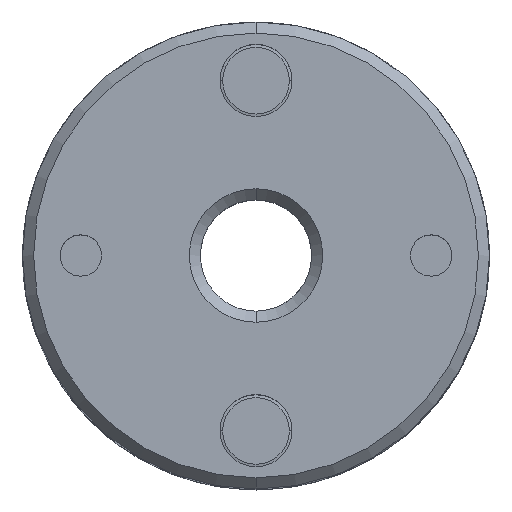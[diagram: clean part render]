
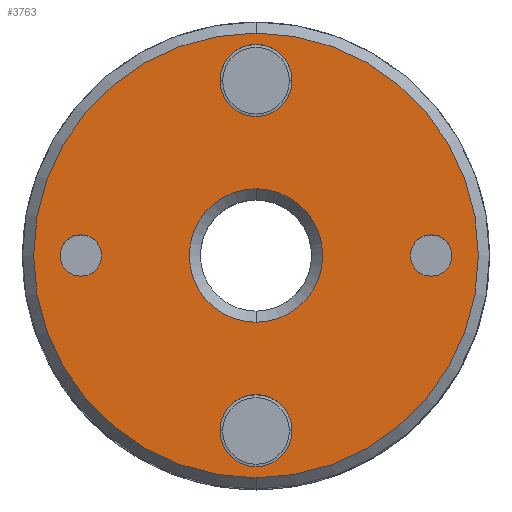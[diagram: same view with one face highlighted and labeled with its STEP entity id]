
A CAD part, top view. The second image highlights one B-rep face of the part: STEP entity #3763.
In plain terms, the highlighted planar face has unit normal (0, 0, 1).
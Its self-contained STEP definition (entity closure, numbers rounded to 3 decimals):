
#1499=CARTESIAN_POINT('',(0.,3.8,5.25));
#1500=VERTEX_POINT('',#1499);
#1516=CARTESIAN_POINT('',(0.,2.5,5.25));
#1517=VERTEX_POINT('',#1516);
#1524=CARTESIAN_POINT('',(0.,3.15,5.25));
#1525=DIRECTION('',(0.0,0.0,-1.0));
#1526=DIRECTION('',(0.0,1.0,0.0));
#1527=AXIS2_PLACEMENT_3D('',#1524,#1525,#1526);
#1528=CIRCLE('',#1527,0.65);
#1529=EDGE_CURVE('',#1500,#1517,#1528,.T.);
#1541=CARTESIAN_POINT('',(0.,-2.5,5.25));
#1542=VERTEX_POINT('',#1541);
#1558=CARTESIAN_POINT('',(0.,-3.8,5.25));
#1559=VERTEX_POINT('',#1558);
#1566=CARTESIAN_POINT('',(0.,-3.15,5.25));
#1567=DIRECTION('',(0.0,0.0,-1.0));
#1568=DIRECTION('',(0.0,1.0,0.0));
#1569=AXIS2_PLACEMENT_3D('',#1566,#1567,#1568);
#1570=CIRCLE('',#1569,0.65);
#1571=EDGE_CURVE('',#1542,#1559,#1570,.T.);
#1583=CARTESIAN_POINT('',(-3.15,0.375,5.25));
#1584=VERTEX_POINT('',#1583);
#1600=CARTESIAN_POINT('',(-3.15,-0.375,5.25));
#1601=VERTEX_POINT('',#1600);
#1608=CARTESIAN_POINT('',(-3.15,0.,5.25));
#1609=DIRECTION('',(0.0,0.0,-1.0));
#1610=DIRECTION('',(0.0,1.0,0.0));
#1611=AXIS2_PLACEMENT_3D('',#1608,#1609,#1610);
#1612=CIRCLE('',#1611,0.375);
#1613=EDGE_CURVE('',#1584,#1601,#1612,.T.);
#1625=CARTESIAN_POINT('',(3.15,0.375,5.25));
#1626=VERTEX_POINT('',#1625);
#1642=CARTESIAN_POINT('',(3.15,-0.375,5.25));
#1643=VERTEX_POINT('',#1642);
#1650=CARTESIAN_POINT('',(3.15,0.,5.25));
#1651=DIRECTION('',(0.0,0.0,-1.0));
#1652=DIRECTION('',(0.0,1.0,0.0));
#1653=AXIS2_PLACEMENT_3D('',#1650,#1651,#1652);
#1654=CIRCLE('',#1653,0.375);
#1655=EDGE_CURVE('',#1626,#1643,#1654,.T.);
#1768=CARTESIAN_POINT('',(0.,-1.2,5.25));
#1769=VERTEX_POINT('',#1768);
#1783=CARTESIAN_POINT('',(0.,1.2,5.25));
#1784=VERTEX_POINT('',#1783);
#1791=CARTESIAN_POINT('',(0.,0.,5.25));
#1792=DIRECTION('',(0.0,0.0,1.0));
#1793=DIRECTION('',(0.0,-1.0,0.0));
#1794=AXIS2_PLACEMENT_3D('',#1791,#1792,#1793);
#1795=CIRCLE('',#1794,1.2);
#1796=EDGE_CURVE('',#1784,#1769,#1795,.T.);
#1937=CARTESIAN_POINT('',(0.,-4.0,5.25));
#1938=VERTEX_POINT('',#1937);
#1945=CARTESIAN_POINT('',(0.,4.0,5.25));
#1946=VERTEX_POINT('',#1945);
#1947=CARTESIAN_POINT('',(0.,0.,5.25));
#1948=DIRECTION('',(0.0,0.0,-1.0));
#1949=DIRECTION('',(0.0,-1.0,0.0));
#1950=AXIS2_PLACEMENT_3D('',#1947,#1948,#1949);
#1951=CIRCLE('',#1950,4.0);
#1952=EDGE_CURVE('',#1938,#1946,#1951,.T.);
#3694=CARTESIAN_POINT('',(0.,0.,5.25));
#3695=DIRECTION('',(0.0,0.0,-1.0));
#3696=DIRECTION('',(0.0,-1.0,0.0));
#3697=AXIS2_PLACEMENT_3D('',#3694,#3695,#3696);
#3698=CIRCLE('',#3697,4.0);
#3699=EDGE_CURVE('',#1946,#1938,#3698,.T.);
#3704=CARTESIAN_POINT('',(0.,0.382,5.25));
#3705=DIRECTION('',(0.0,0.0,-1.0));
#3706=DIRECTION('',(0.0,1.0,0.0));
#3707=AXIS2_PLACEMENT_3D('',#3704,#3705,#3706);
#3708=PLANE('',#3707);
#3709=ORIENTED_EDGE('',*,*,#3699,.F.);
#3710=ORIENTED_EDGE('',*,*,#1952,.F.);
#3711=EDGE_LOOP('',(#3709,#3710));
#3712=FACE_OUTER_BOUND('',#3711,.T.);
#3713=ORIENTED_EDGE('',*,*,#1796,.F.);
#3714=CARTESIAN_POINT('',(0.,0.,5.25));
#3715=DIRECTION('',(0.0,0.0,1.0));
#3716=DIRECTION('',(0.0,-1.0,0.0));
#3717=AXIS2_PLACEMENT_3D('',#3714,#3715,#3716);
#3718=CIRCLE('',#3717,1.2);
#3719=EDGE_CURVE('',#1769,#1784,#3718,.T.);
#3720=ORIENTED_EDGE('',*,*,#3719,.F.);
#3721=EDGE_LOOP('',(#3713,#3720));
#3722=FACE_BOUND('',#3721,.T.);
#3723=ORIENTED_EDGE('',*,*,#1655,.T.);
#3724=CARTESIAN_POINT('',(3.15,0.,5.25));
#3725=DIRECTION('',(0.0,0.0,-1.0));
#3726=DIRECTION('',(0.0,1.0,0.0));
#3727=AXIS2_PLACEMENT_3D('',#3724,#3725,#3726);
#3728=CIRCLE('',#3727,0.375);
#3729=EDGE_CURVE('',#1643,#1626,#3728,.T.);
#3730=ORIENTED_EDGE('',*,*,#3729,.T.);
#3731=EDGE_LOOP('',(#3723,#3730));
#3732=FACE_BOUND('',#3731,.T.);
#3733=ORIENTED_EDGE('',*,*,#1613,.T.);
#3734=CARTESIAN_POINT('',(-3.15,0.,5.25));
#3735=DIRECTION('',(0.0,0.0,-1.0));
#3736=DIRECTION('',(0.0,1.0,0.0));
#3737=AXIS2_PLACEMENT_3D('',#3734,#3735,#3736);
#3738=CIRCLE('',#3737,0.375);
#3739=EDGE_CURVE('',#1601,#1584,#3738,.T.);
#3740=ORIENTED_EDGE('',*,*,#3739,.T.);
#3741=EDGE_LOOP('',(#3733,#3740));
#3742=FACE_BOUND('',#3741,.T.);
#3743=ORIENTED_EDGE('',*,*,#1571,.T.);
#3744=CARTESIAN_POINT('',(0.,-3.15,5.25));
#3745=DIRECTION('',(0.0,0.0,-1.0));
#3746=DIRECTION('',(0.0,1.0,0.0));
#3747=AXIS2_PLACEMENT_3D('',#3744,#3745,#3746);
#3748=CIRCLE('',#3747,0.65);
#3749=EDGE_CURVE('',#1559,#1542,#3748,.T.);
#3750=ORIENTED_EDGE('',*,*,#3749,.T.);
#3751=EDGE_LOOP('',(#3743,#3750));
#3752=FACE_BOUND('',#3751,.T.);
#3753=ORIENTED_EDGE('',*,*,#1529,.T.);
#3754=CARTESIAN_POINT('',(0.,3.15,5.25));
#3755=DIRECTION('',(0.0,0.0,-1.0));
#3756=DIRECTION('',(0.0,1.0,0.0));
#3757=AXIS2_PLACEMENT_3D('',#3754,#3755,#3756);
#3758=CIRCLE('',#3757,0.65);
#3759=EDGE_CURVE('',#1517,#1500,#3758,.T.);
#3760=ORIENTED_EDGE('',*,*,#3759,.T.);
#3761=EDGE_LOOP('',(#3753,#3760));
#3762=FACE_BOUND('',#3761,.T.);
#3763=ADVANCED_FACE('',(#3712,#3722,#3732,#3742,#3752,#3762),#3708,.F.);
